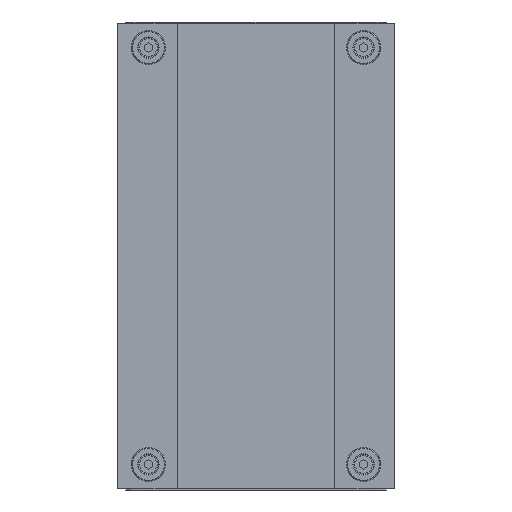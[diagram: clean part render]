
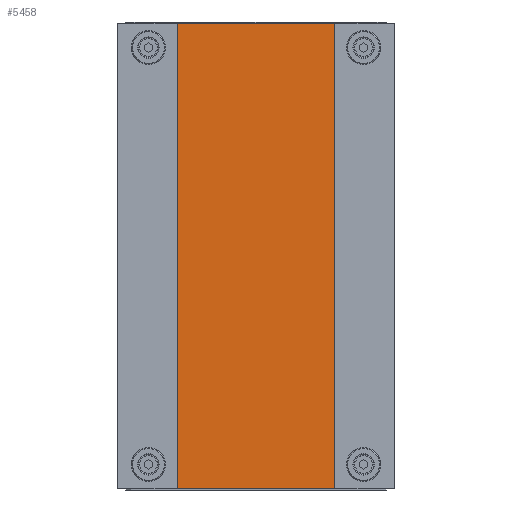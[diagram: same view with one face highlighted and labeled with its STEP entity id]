
A CAD part, front view. The second image highlights one B-rep face of the part: STEP entity #5458.
In plain terms, the highlighted planar face has unit normal (0, -1, 0).
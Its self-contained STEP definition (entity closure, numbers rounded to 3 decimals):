
#392 = LINE ( 'NONE', #393, #395 ) ;
#393 = CARTESIAN_POINT ( 'NONE',  ( -63., -20., 173. ) ) ;
#395 = VECTOR ( 'NONE', #396, 1000. ) ;
#396 = DIRECTION ( 'NONE',  ( 0., 0., -1. ) ) ;
#528 = CARTESIAN_POINT ( 'NONE',  ( -63., -20., 173. ) ) ;
#1696 = FACE_OUTER_BOUND ( 'NONE', #5552, .T. ) ;
#1697 = PLANE ( 'NONE',  #1698 ) ;
#1698 = AXIS2_PLACEMENT_3D ( 'NONE', #1699, #1700, #1701 ) ;
#1699 = CARTESIAN_POINT ( 'NONE',  ( 63., -20., 173. ) ) ;
#1700 = DIRECTION ( 'NONE',  ( 0., 1., 0. ) ) ;
#1701 = DIRECTION ( 'NONE',  ( -1., 0., 0. ) ) ;
#2264 = LINE ( 'NONE', #2265, #2266 ) ;
#2265 = CARTESIAN_POINT ( 'NONE',  ( 63., -20., -173. ) ) ;
#2266 = VECTOR ( 'NONE', #2267, 1000. ) ;
#2267 = DIRECTION ( 'NONE',  ( 1., 0., 0. ) ) ;
#2347 = CARTESIAN_POINT ( 'NONE',  ( -63., -20., -173. ) ) ;
#2996 = LINE ( 'NONE', #2997, #2998 ) ;
#2997 = CARTESIAN_POINT ( 'NONE',  ( 63., -20., 173. ) ) ;
#2998 = VECTOR ( 'NONE', #2999, 1000. ) ;
#2999 = DIRECTION ( 'NONE',  ( 1., 0., 0. ) ) ;
#3508 = CARTESIAN_POINT ( 'NONE',  ( 63., -20., -173. ) ) ;
#3832 = VERTEX_POINT ( 'NONE', #8346 ) ;
#4569 = EDGE_CURVE ( 'NONE', #3832, #6534, #8966, .T. ) ;
#5014 = EDGE_CURVE ( 'NONE', #5060, #5850, #392, .T. ) ;
#5060 = VERTEX_POINT ( 'NONE', #528 ) ;
#5458 = ADVANCED_FACE ( 'NONE', ( #1696 ), #1697, .F. ) ;
#5552 = EDGE_LOOP ( 'NONE', ( #5701, #5966, #6117, #6400 ) ) ;
#5701 = ORIENTED_EDGE ( 'NONE', *, *, #5804, .T. ) ;
#5804 = EDGE_CURVE ( 'NONE', #5850, #6534, #2264, .T. ) ;
#5850 = VERTEX_POINT ( 'NONE', #2347 ) ;
#5966 = ORIENTED_EDGE ( 'NONE', *, *, #4569, .F. ) ;
#6117 = ORIENTED_EDGE ( 'NONE', *, *, #6226, .F. ) ;
#6226 = EDGE_CURVE ( 'NONE', #5060, #3832, #2996, .T. ) ;
#6400 = ORIENTED_EDGE ( 'NONE', *, *, #5014, .T. ) ;
#6534 = VERTEX_POINT ( 'NONE', #3508 ) ;
#8346 = CARTESIAN_POINT ( 'NONE',  ( 63., -20., 173. ) ) ;
#8966 = LINE ( 'NONE', #8967, #8968 ) ;
#8967 = CARTESIAN_POINT ( 'NONE',  ( 63., -20., 173. ) ) ;
#8968 = VECTOR ( 'NONE', #8969, 1000. ) ;
#8969 = DIRECTION ( 'NONE',  ( 0., 0., -1. ) ) ;
